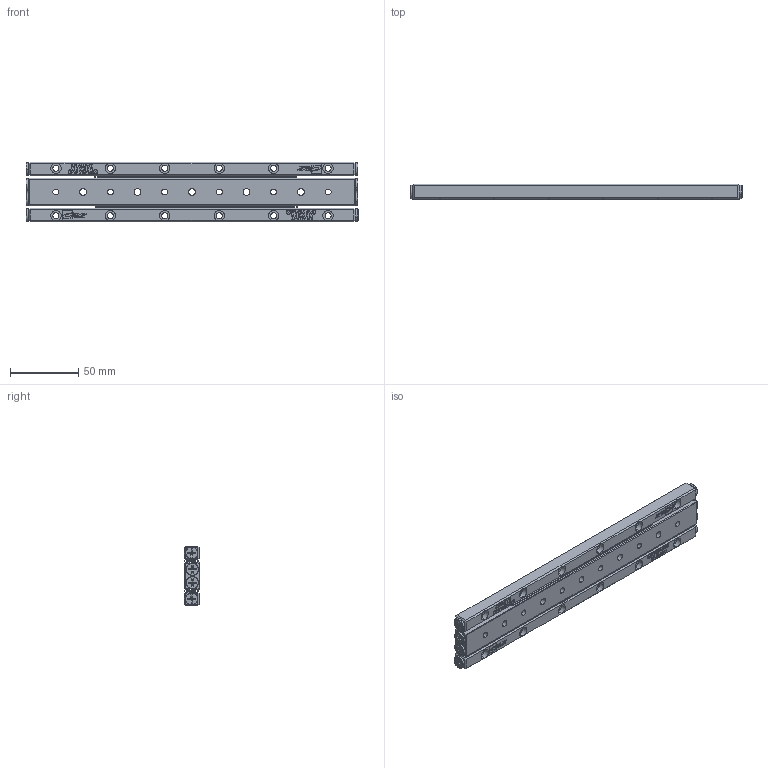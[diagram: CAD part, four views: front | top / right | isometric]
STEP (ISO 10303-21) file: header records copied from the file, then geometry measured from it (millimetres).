
FILE_DESCRIPTION (( 'STEP AP203' ), '1' );
FILE_NAME ('GRD04-240.STEP', '2012-10-17T07:11:52', ( '123' ), ( '' ), 'SwSTEP 2.0', 'SolidWorks 2012', '' );
FILE_SCHEMA (( 'CONFIG_CONTROL_DESIGN' ));
Length unit declared in the file: millimetre
Products named in the file (1): GRD04-240
Bounding box: 244 x 11.5 x 43.86 mm (x, y, z)
Surface area: 45734 mm2 (no closed solid volume)
Topology: 0 solids, 48 shells, 549 faces, 3103 edges, 2555 vertices
Faces by surface type: plane 396, cylinder 102, torus 32, bspline 10, cone 9
Entity records: 34668 total; most frequent: CARTESIAN_POINT 11444, DIRECTION 4411, ORIENTED_EDGE 4113, EDGE_CURVE 3097, VERTEX_POINT 2555, LINE 2143, VECTOR 2143, AXIS2_PLACEMENT_3D 1134
